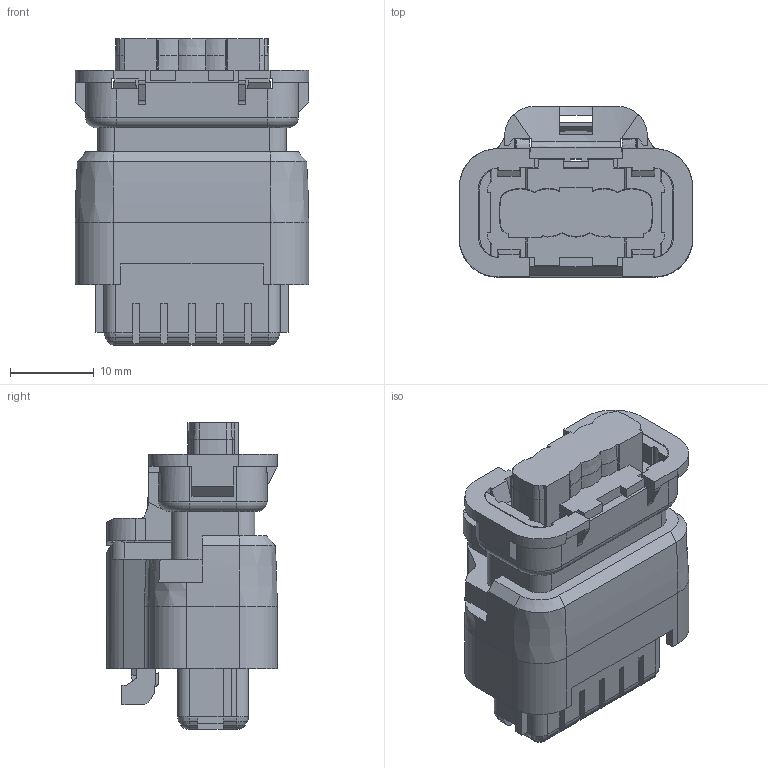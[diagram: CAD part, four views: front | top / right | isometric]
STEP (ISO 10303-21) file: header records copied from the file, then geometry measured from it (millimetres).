
FILE_DESCRIPTION(/* description */ (''),/* implementation_level */ '2;1');
FILE_NAME(/* name */ '33511730_ENV10_01.stp',/* time_stamp */ '2020-07-09T21:39:55+05:00',/* author */ (''),/* organization */ (''),/* preprocessor_version */ 'ST-DEVELOPER v16',/* originating_system */ 'SIEMENS PLM Software NX 11.0',/* authorisation */ '');
FILE_SCHEMA (('AP203_CONFIGURATION_CONTROLLED_3D_DESIGN_OF_MECHANICAL_PARTS_AND_ASSEMBLIES_MIM_LF { 1 0 10303 403 2 1 2}'));
Length unit declared in the file: millimetre
Products named in the file (1): qzs53380227A7l9j
Bounding box: 27.8 x 20.3 x 36.55 mm (x, y, z)
Volume: 9908.8 mm3; surface area: 7415 mm2
Topology: 1 solids, 2 shells, 833 faces, 2425 edges, 1574 vertices
Faces by surface type: plane 590, cylinder 170, cone 42, bspline 18, torus 11, sphere 2
Entity records: 28484 total; most frequent: CARTESIAN_POINT 6233, ORIENTED_EDGE 4848, DIRECTION 4421, EDGE_CURVE 2424, LINE 1775, VECTOR 1775, VERTEX_POINT 1574, AXIS2_PLACEMENT_3D 1323
